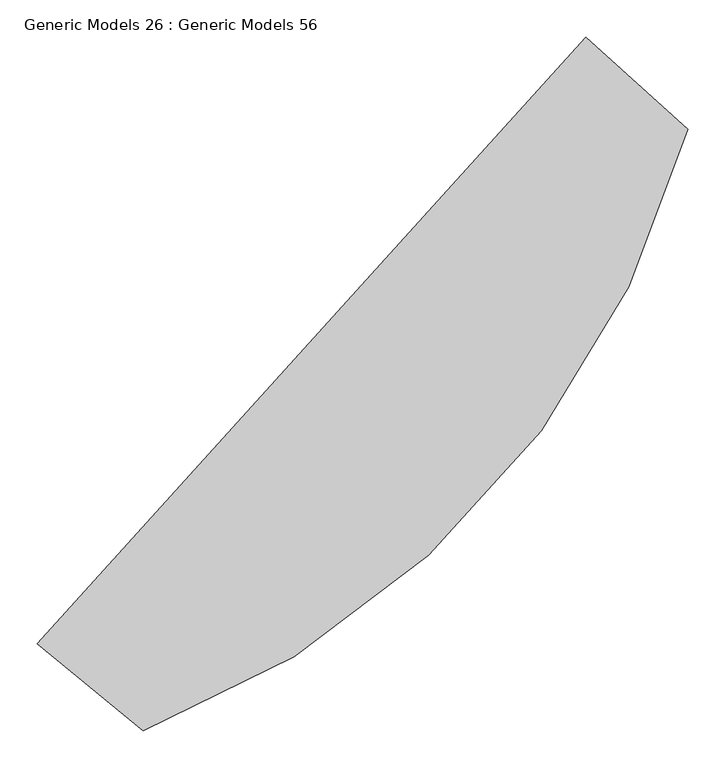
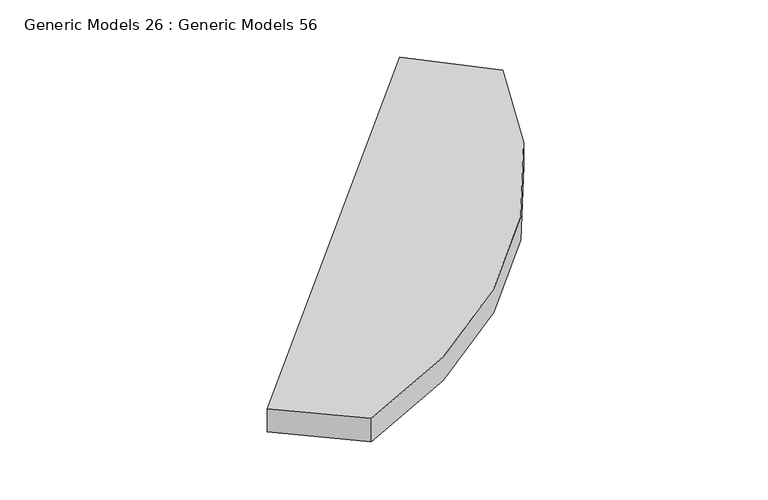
"""IFC4 building model written with IfcOpenShell, lengths in millimetres: proxy geometry, Generic Models 26 : Generic Models 56."""

from ifc_helpers import new_model, si_unit, point, frame, frame_2d, origin, place, context, project, spatial, polyline, circle_curve, trimmed, segment, composite_curve, outline, extrude, source, transform, mapped, element, save


def generic_models_26_generic_models_56_64c1e8b9(model_context):
    return source(origin(), model_context, "Body", "SweptSolid", [
        extrude(outline(composite_curve([segment(trimmed(circle_curve(frame_2d((-4031.1652234, 2970.8107952)), 1205.5136337), [point((-2867.3615045, 2656.447908))], [point((-3603.1613503, 1843.8343954))], False, "CARTESIAN"), True, "CONTINUOUS"), segment(polyline([(-3603.1613503, 1843.8343954), (-3746.8993099, 1961.566363), (-3004.9204923, 2781.0038998), (-2867.3615045, 2656.447908)]), True, "CONTINUOUS")], self_intersect=False)), frame((0.0, 0.0, 850.0), z_axis=(0.0, 0.0, 1.0), x_axis=(1.0, 0.0, 0.0)), (0.0, 0.0, 1.0), 50.0),
    ])


if __name__ == "__main__":
    model = new_model("IFC4")
    model_context = context("Model", 3, world=origin())
    ifc_project = project(units=[si_unit("LENGTHUNIT", "METRE", prefix="MILLI")], contexts=[model_context])
    site = spatial("IfcSite", under=ifc_project)
    building = spatial("IfcBuilding", under=site)
    placement = place(None, origin())
    generic_models_26_generic_models_56_shape = generic_models_26_generic_models_56_64c1e8b9(model_context)
    element("IfcBuildingElementProxy", 1, Name="Generic Models 26 : Generic Models 56", ObjectType="Generic Models 26 : Generic Models 56", at=placement, inside=building, context=model_context, shape_type="MappedRepresentation", body=[
        mapped(generic_models_26_generic_models_56_shape, transform((0.0, 0.0, 0.0), x_axis=(1.0, 0.0, 0.0), y_axis=(0.0, 1.0, 0.0), z_axis=(0.0, 0.0, 1.0))),
    ])
    save(model, "model.ifc")
